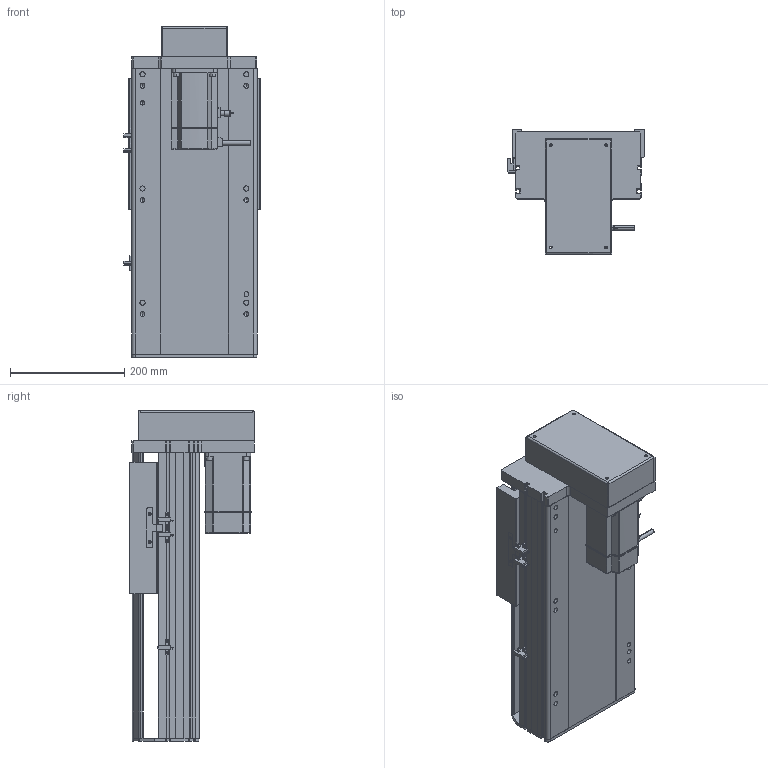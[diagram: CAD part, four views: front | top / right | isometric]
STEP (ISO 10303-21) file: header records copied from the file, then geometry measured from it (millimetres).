
FILE_DESCRIPTION (( 'STEP AP214' ), '1' );
FILE_NAME ('RTH22-XX-200-M-M75-C4.STEP', '2025-10-24T11:06:07', ( 'Microsoft' ), ( 'Microsoft' ), 'SwSTEP 2.0', 'SolidWorks 2018', '' );
FILE_SCHEMA (( 'AUTOMOTIVE_DESIGN' ));
Length unit declared in the file: millimetre
Products named in the file (10): N_RTH22-GY-001耜裔^RTH22-XX-XX-M-M75-C4; RTH22-XX-200-M-M75-C4; N_RTH22-M-008-P75萇儂啣^RTH22-XX-XX-M-M75-C4; N_RTH22-M-018裔赽^RTH22-XX-XX-M-M75-C4; N_RTH22-GY-013外置感应片^RTH22-XX-XX-M-M75-C4; N_RTH22-M-007奻裔^RTH22-XX-XX-M-M75-C4; N_OMRON EE-SX672 传感器^RTH22-XX-XX-M-M75-C4; N_RTH22-L-004-SFS25賑釱^RTH22-XX-XX-M-M75-C4; N_RTH22-L-011菁釱^RTH22-XX-XX-M-M75-C4; N_750W萇儂^RTH22-XX-XX-M-M75-C4
Assembly tree (11 placements, depth 2):
  RTH22-XX-200-M-M75-C4
    N_RTH22-L-011菁釱^RTH22-XX-XX-M-M75-C4
    N_RTH22-GY-001耜裔^RTH22-XX-XX-M-M75-C4
    N_750W萇儂^RTH22-XX-XX-M-M75-C4
    N_RTH22-M-008-P75萇儂啣^RTH22-XX-XX-M-M75-C4
    N_RTH22-M-007奻裔^RTH22-XX-XX-M-M75-C4
    N_RTH22-M-018裔赽^RTH22-XX-XX-M-M75-C4
    N_OMRON EE-SX672 传感器^RTH22-XX-XX-M-M75-C4  x3
    N_RTH22-GY-013外置感应片^RTH22-XX-XX-M-M75-C4
    N_RTH22-L-004-SFS25賑釱^RTH22-XX-XX-M-M75-C4
Bounding box: 238.5 x 218.5 x 579.7 mm (x, y, z)
Volume: 9496918.8 mm3; surface area: 1139454.2 mm2
Topology: 11 solids, 11 shells, 1551 faces, 4230 edges, 2735 vertices
Faces by surface type: plane 799, cylinder 427, bspline 279, cone 46
Entity records: 38367 total; most frequent: CARTESIAN_POINT 11772, ORIENTED_EDGE 5460, DIRECTION 5084, EDGE_CURVE 2730, VERTEX_POINT 1771, VECTOR 1734, LINE 1734, AXIS2_PLACEMENT_3D 1675
